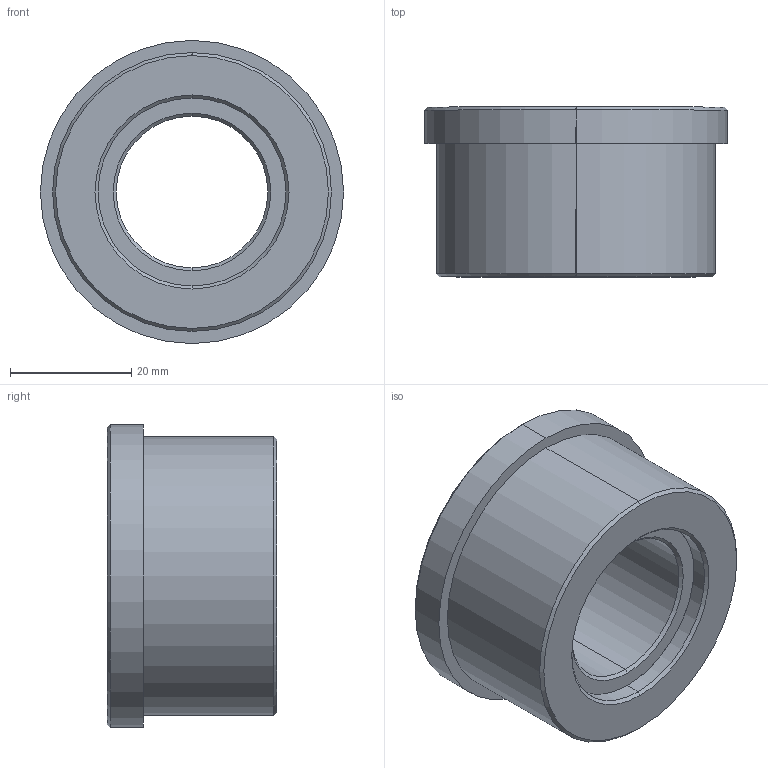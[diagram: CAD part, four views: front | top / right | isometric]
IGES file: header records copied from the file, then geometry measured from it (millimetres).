
Start section: 3D InterOp IGES (Version 20 0 1), Spatial Corp. Copyright (c) 1999-2007.
Global section: file name: 10.10.02.igs; native system: Spatial Corp.; preprocessor: 3D InterOp GENERIC/IGES 3.0; author: Noname; organization: Noname; date: 20111110.164151; units: metre
Bounding box: 50 x 28 x 50 mm (x, y, z)
Surface area: 14244.3 mm2 (no closed solid volume)
Topology: 0 solids, 0 shells, 63 faces, 298 edges, 298 vertices
Faces by surface type: revolution 48, extrusion 15
